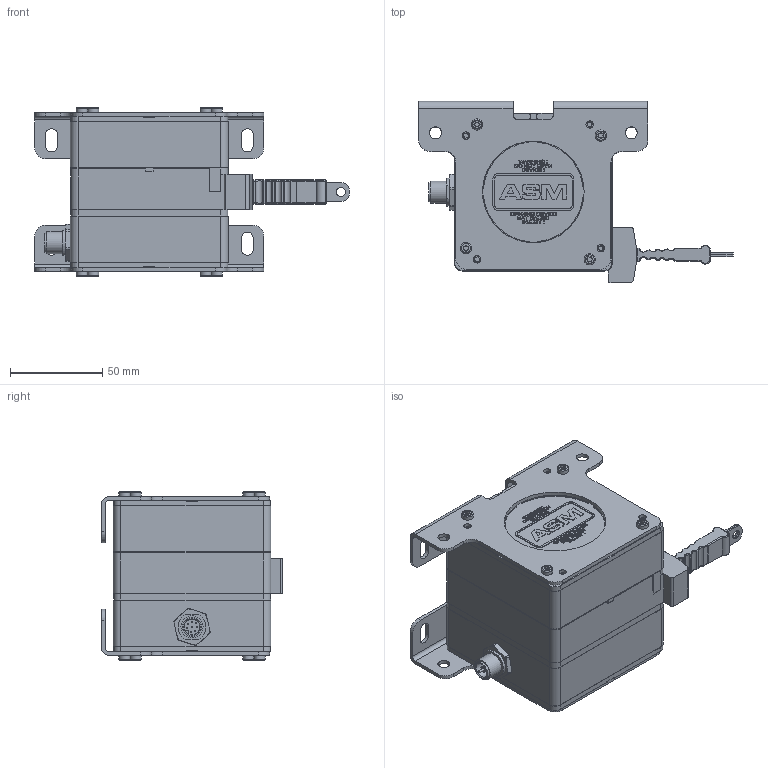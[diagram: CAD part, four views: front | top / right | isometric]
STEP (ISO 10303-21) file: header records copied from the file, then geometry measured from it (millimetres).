
FILE_DESCRIPTION((''),'2;1');
FILE_NAME('C:\Dokumente und Einstellungen\welter\Desktop\wb85.stp','2013-12-03T09:54:37',('welter'),(''),'Autodesk Inventor 2008','Autodesk Inventor 2008','');
FILE_SCHEMA(('AUTOMOTIVE_DESIGN { 1 0 10303 214 1 1 1 1 }'));
Length unit declared in the file: millimetre
Products named in the file (1): 1
Bounding box: 170.2 x 97.99 x 91.4 mm (x, y, z)
Volume: 638728.4 mm3; surface area: 70922.8 mm2
Topology: 18 solids, 18 shells, 2355 faces, 6298 edges, 4134 vertices
Faces by surface type: plane 1310, bspline 510, cylinder 491, sphere 34, torus 9, cone 1
Full cylindrical faces by diameter (mm): 0.6 x8, 3.5 x8, 6.1 x8, 7 x8, 7.9 x1, 10.4 x1, 12 x1, 55 x2
Entity records: 80683 total; most frequent: CARTESIAN_POINT 22098, ORIENTED_EDGE 12314, DIRECTION 10167, EDGE_CURVE 6157, VERTEX_POINT 4098, VECTOR 4093, LINE 4093, AXIS2_PLACEMENT_3D 3037
